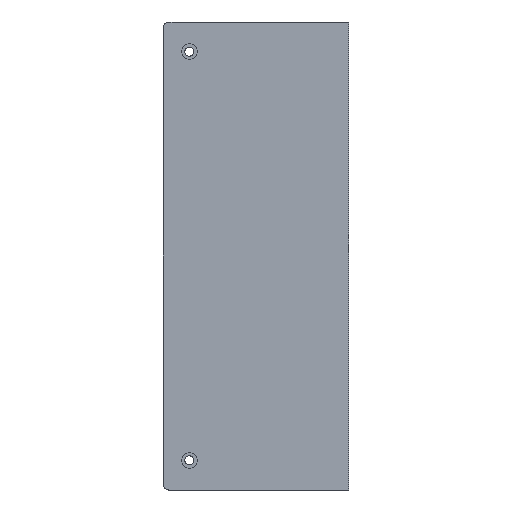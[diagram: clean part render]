
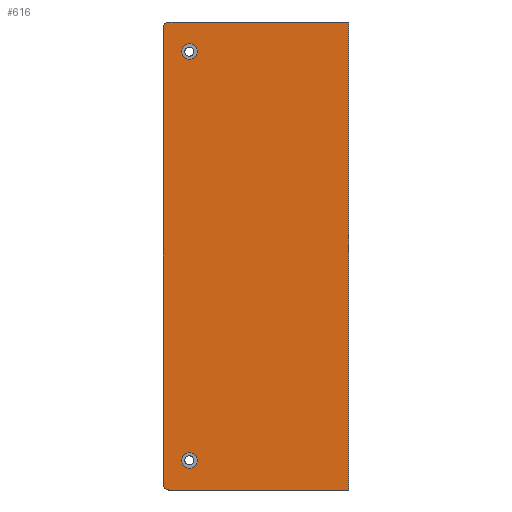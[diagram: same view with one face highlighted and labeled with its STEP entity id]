
A CAD part, left-side view. The second image highlights one B-rep face of the part: STEP entity #616.
In plain terms, the highlighted planar face has unit normal (-1, 0, 0).
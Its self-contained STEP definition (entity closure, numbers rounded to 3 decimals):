
#93=FACE_BOUND('',#172,.T.);
#94=FACE_BOUND('',#173,.T.);
#108=PLANE('',#690);
#135=FACE_OUTER_BOUND('',#171,.T.);
#171=EDGE_LOOP('',(#498,#499,#500,#501,#502,#503));
#172=EDGE_LOOP('',(#504));
#173=EDGE_LOOP('',(#505));
#217=LINE('',#981,#253);
#222=LINE('',#1000,#258);
#225=LINE('',#1005,#261);
#226=LINE('',#1007,#262);
#253=VECTOR('',#799,10.);
#258=VECTOR('',#818,10.);
#261=VECTOR('',#823,10.);
#262=VECTOR('',#824,10.);
#276=CIRCLE('',#660,2.1);
#278=CIRCLE('',#663,2.1);
#292=CIRCLE('',#688,1.5);
#293=CIRCLE('',#691,1.5);
#317=VERTEX_POINT('',#925);
#319=VERTEX_POINT('',#931);
#334=VERTEX_POINT('',#978);
#335=VERTEX_POINT('',#980);
#340=VERTEX_POINT('',#993);
#341=VERTEX_POINT('',#995);
#342=VERTEX_POINT('',#999);
#344=VERTEX_POINT('',#1006);
#366=EDGE_CURVE('',#317,#317,#276,.T.);
#369=EDGE_CURVE('',#319,#319,#278,.T.);
#392=EDGE_CURVE('',#335,#334,#217,.T.);
#399=EDGE_CURVE('',#340,#341,#292,.T.);
#401=EDGE_CURVE('',#341,#342,#222,.T.);
#404=EDGE_CURVE('',#335,#340,#225,.T.);
#405=EDGE_CURVE('',#344,#334,#226,.T.);
#406=EDGE_CURVE('',#342,#344,#293,.T.);
#498=ORIENTED_EDGE('',*,*,#399,.F.);
#499=ORIENTED_EDGE('',*,*,#404,.F.);
#500=ORIENTED_EDGE('',*,*,#392,.T.);
#501=ORIENTED_EDGE('',*,*,#405,.F.);
#502=ORIENTED_EDGE('',*,*,#406,.F.);
#503=ORIENTED_EDGE('',*,*,#401,.F.);
#504=ORIENTED_EDGE('',*,*,#366,.T.);
#505=ORIENTED_EDGE('',*,*,#369,.T.);
#616=ADVANCED_FACE('',(#135,#93,#94),#108,.T.);
#660=AXIS2_PLACEMENT_3D('',#927,#740,#741);
#663=AXIS2_PLACEMENT_3D('',#933,#747,#748);
#688=AXIS2_PLACEMENT_3D('',#996,#813,#814);
#690=AXIS2_PLACEMENT_3D('',#1004,#821,#822);
#691=AXIS2_PLACEMENT_3D('',#1008,#825,#826);
#740=DIRECTION('center_axis',(1.,0.,0.));
#741=DIRECTION('ref_axis',(0.,0.,-1.));
#747=DIRECTION('center_axis',(1.,0.,0.));
#748=DIRECTION('ref_axis',(0.,0.,-1.));
#799=DIRECTION('',(0.,0.,1.));
#813=DIRECTION('center_axis',(1.,0.,0.));
#814=DIRECTION('ref_axis',(0.,0.707,-0.707));
#818=DIRECTION('',(0.,0.,1.));
#821=DIRECTION('center_axis',(-1.,0.,0.));
#822=DIRECTION('ref_axis',(0.,-1.,0.));
#823=DIRECTION('',(0.,1.,0.));
#824=DIRECTION('',(0.,-1.,0.));
#825=DIRECTION('center_axis',(1.,0.,0.));
#826=DIRECTION('ref_axis',(0.,0.707,0.707));
#925=CARTESIAN_POINT('',(0.,43.,-53.1));
#927=CARTESIAN_POINT('Origin',(0.,43.,-55.2));
#931=CARTESIAN_POINT('',(0.,43.,57.3));
#933=CARTESIAN_POINT('Origin',(0.,43.,55.2));
#978=CARTESIAN_POINT('',(0.,0.,63.2));
#980=CARTESIAN_POINT('',(0.,0.,-63.2));
#981=CARTESIAN_POINT('',(0.,0.,0.));
#993=CARTESIAN_POINT('',(0.,48.5,-63.2));
#995=CARTESIAN_POINT('',(0.,50.,-61.7));
#996=CARTESIAN_POINT('Origin',(0.,48.5,-61.7));
#999=CARTESIAN_POINT('',(0.,50.,61.7));
#1000=CARTESIAN_POINT('',(0.,50.,0.));
#1004=CARTESIAN_POINT('Origin',(0.,50.,0.));
#1005=CARTESIAN_POINT('',(0.,50.,-63.2));
#1006=CARTESIAN_POINT('',(0.,48.5,63.2));
#1007=CARTESIAN_POINT('',(0.,50.,63.2));
#1008=CARTESIAN_POINT('Origin',(0.,48.5,61.7));
